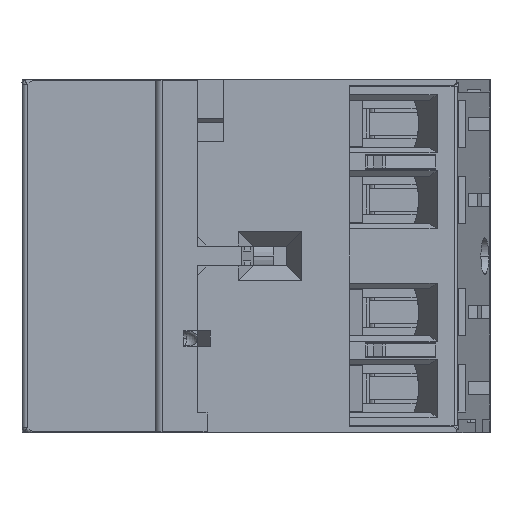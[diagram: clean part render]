
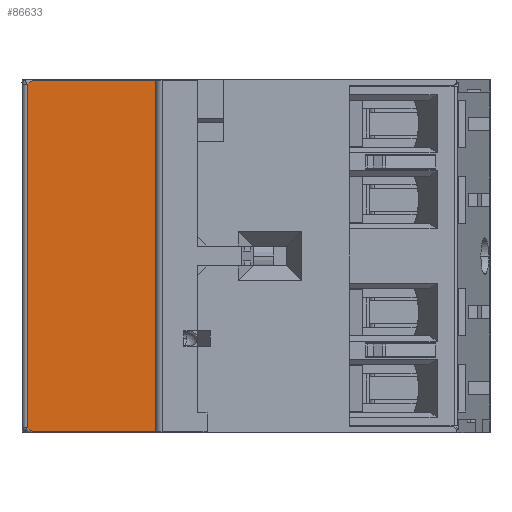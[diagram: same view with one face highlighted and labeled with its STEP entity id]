
A CAD part, left-side view. The second image highlights one B-rep face of the part: STEP entity #86633.
In plain terms, the highlighted planar face has unit normal (-1, 0, 0).
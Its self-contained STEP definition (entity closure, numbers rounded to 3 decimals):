
#24126 = CARTESIAN_POINT ( 'NONE',  ( -22.5, 5.3, 0. ) ) ;
#24317 = DIRECTION ( 'NONE',  ( 0., 0., 1. ) ) ;
#24318 = VECTOR ( 'NONE', #24317, 1000. ) ;
#24319 = CARTESIAN_POINT ( 'NONE',  ( -22.5, 6.3, -26.55 ) ) ;
#24320 = LINE ( 'NONE', #24319, #24318 ) ;
#24396 = CARTESIAN_POINT ( 'NONE',  ( -22.5, 6.3, -2.449 ) ) ;
#24407 = CARTESIAN_POINT ( 'NONE',  ( -22.5, 6.3, 2.449 ) ) ;
#24414 = VECTOR ( 'NONE', #24463, 1000. ) ;
#24415 = CARTESIAN_POINT ( 'NONE',  ( -22.5, 6.3, 2.449 ) ) ;
#24416 = LINE ( 'NONE', #24415, #24414 ) ;
#24421 = CARTESIAN_POINT ( 'NONE',  ( -22.5, 5.3, 0. ) ) ;
#24422 = CARTESIAN_POINT ( 'NONE',  ( -22.5, 5.538, -0.377 ) ) ;
#24423 = CARTESIAN_POINT ( 'NONE',  ( -22.5, 5.779, -0.756 ) ) ;
#24424 = CARTESIAN_POINT ( 'NONE',  ( -22.5, 6.158, -1.565 ) ) ;
#24425 = CARTESIAN_POINT ( 'NONE',  ( -22.5, 6.299, -2. ) ) ;
#24426 = CARTESIAN_POINT ( 'NONE',  ( -22.5, 6.3, -2.449 ) ) ;
#24429 = B_SPLINE_CURVE_WITH_KNOTS ( 'NONE', 3,
 ( #24426, #24425, #24424, #24423, #24422, #24421 ),
 .UNSPECIFIED., .F., .F.,
 ( 4, 2, 4 ),
 ( 0., 0.5, 1. ),
 .UNSPECIFIED. ) ;
#24463 = DIRECTION ( 'NONE',  ( 0., 0., 1. ) ) ;
#24520 = AXIS2_PLACEMENT_3D ( 'NONE', #24568, #24567, #24566 ) ;
#24521 = PLANE ( 'NONE',  #24520 ) ;
#24531 = CARTESIAN_POINT ( 'NONE',  ( -22.5, 6.3, 2.449 ) ) ;
#24532 = CARTESIAN_POINT ( 'NONE',  ( -22.5, 6.299, 2. ) ) ;
#24533 = CARTESIAN_POINT ( 'NONE',  ( -22.5, 6.158, 1.565 ) ) ;
#24534 = CARTESIAN_POINT ( 'NONE',  ( -22.5, 5.779, 0.756 ) ) ;
#24535 = CARTESIAN_POINT ( 'NONE',  ( -22.5, 5.538, 0.377 ) ) ;
#24536 = CARTESIAN_POINT ( 'NONE',  ( -22.5, 5.3, 0. ) ) ;
#24542 = FACE_OUTER_BOUND ( 'NONE', #86447, .T. ) ;
#24543 = B_SPLINE_CURVE_WITH_KNOTS ( 'NONE', 3,
 ( #24536, #24535, #24534, #24533, #24532, #24531 ),
 .UNSPECIFIED., .F., .F.,
 ( 4, 2, 4 ),
 ( 0., 0.5, 1. ),
 .UNSPECIFIED. ) ;
#24566 = DIRECTION ( 'NONE',  ( 0., -1., 0. ) ) ;
#24567 = DIRECTION ( 'NONE',  ( -1., 0., 0. ) ) ;
#24568 = CARTESIAN_POINT ( 'NONE',  ( -22.5, 26.5, -26.75 ) ) ;
#62455 = CARTESIAN_POINT ( 'NONE',  ( -22.5, 25.7, 25.95 ) ) ;
#62681 = CARTESIAN_POINT ( 'NONE',  ( -22.5, 24.676, -26.55 ) ) ;
#62796 = CARTESIAN_POINT ( 'NONE',  ( -22.5, 24.676, -26.55 ) ) ;
#62799 = CARTESIAN_POINT ( 'NONE',  ( -22.5, 24.778, -26.55 ) ) ;
#62800 = CARTESIAN_POINT ( 'NONE',  ( -22.5, 24.879, -26.529 ) ) ;
#62802 = CARTESIAN_POINT ( 'NONE',  ( -22.5, 25.069, -26.457 ) ) ;
#62805 = CARTESIAN_POINT ( 'NONE',  ( -22.5, 25.158, -26.408 ) ) ;
#62807 = CARTESIAN_POINT ( 'NONE',  ( -22.5, 25.41, -26.236 ) ) ;
#62809 = CARTESIAN_POINT ( 'NONE',  ( -22.5, 25.557, -26.094 ) ) ;
#62812 = CARTESIAN_POINT ( 'NONE',  ( -22.5, 25.7, -25.95 ) ) ;
#62841 = B_SPLINE_CURVE_WITH_KNOTS ( 'NONE', 3,
 ( #62812, #62809, #62807, #62805, #62802, #62800, #62799, #62796 ),
 .UNSPECIFIED., .F., .F.,
 ( 4, 2, 2, 4 ),
 ( 0., 0.5, 0.75, 1. ),
 .UNSPECIFIED. ) ;
#62890 = DIRECTION ( 'NONE',  ( 0., -1., 0. ) ) ;
#62891 = VECTOR ( 'NONE', #62890, 1000. ) ;
#62893 = CARTESIAN_POINT ( 'NONE',  ( -22.5, 24.676, -26.55 ) ) ;
#62895 = LINE ( 'NONE', #62893, #62891 ) ;
#62917 = CARTESIAN_POINT ( 'NONE',  ( -22.5, 6.3, -26.55 ) ) ;
#63239 = CARTESIAN_POINT ( 'NONE',  ( -22.5, 25.7, -25.95 ) ) ;
#63249 = LINE ( 'NONE', #63312, #63310 ) ;
#63309 = DIRECTION ( 'NONE',  ( 0., 0., 1. ) ) ;
#63310 = VECTOR ( 'NONE', #63309, 1000. ) ;
#63312 = CARTESIAN_POINT ( 'NONE',  ( -22.5, 25.7, -25.95 ) ) ;
#63968 = CARTESIAN_POINT ( 'NONE',  ( -22.5, 24.676, 26.55 ) ) ;
#63971 = CARTESIAN_POINT ( 'NONE',  ( -22.5, 25.079, 26.55 ) ) ;
#63974 = CARTESIAN_POINT ( 'NONE',  ( -22.5, 25.422, 26.232 ) ) ;
#63977 = CARTESIAN_POINT ( 'NONE',  ( -22.5, 25.7, 25.95 ) ) ;
#64007 = B_SPLINE_CURVE_WITH_KNOTS ( 'NONE', 3,
 ( #63977, #63974, #63971, #63968 ),
 .UNSPECIFIED., .F., .F.,
 ( 4, 4 ),
 ( 0., 1. ),
 .UNSPECIFIED. ) ;
#64493 = DIRECTION ( 'NONE',  ( 0., -1., 0. ) ) ;
#64495 = VECTOR ( 'NONE', #64493, 1000. ) ;
#64497 = CARTESIAN_POINT ( 'NONE',  ( -22.5, 24.676, 26.55 ) ) ;
#64499 = LINE ( 'NONE', #64497, #64495 ) ;
#64524 = CARTESIAN_POINT ( 'NONE',  ( -22.5, 24.676, 26.55 ) ) ;
#64790 = CARTESIAN_POINT ( 'NONE',  ( -22.5, 6.3, 26.55 ) ) ;
#86396 = VERTEX_POINT ( 'NONE', #24126 ) ;
#86447 = EDGE_LOOP ( 'NONE', ( #86449, #86452, #86459, #86462, #86468, #86471, #86555, #86564, #86569 ) ) ;
#86449 = ORIENTED_EDGE ( 'NONE', *, *, #141262, .F. ) ;
#86452 = ORIENTED_EDGE ( 'NONE', *, *, #141236, .F. ) ;
#86459 = ORIENTED_EDGE ( 'NONE', *, *, #141143, .F. ) ;
#86462 = ORIENTED_EDGE ( 'NONE', *, *, #141094, .T. ) ;
#86468 = ORIENTED_EDGE ( 'NONE', *, *, #141110, .T. ) ;
#86471 = ORIENTED_EDGE ( 'NONE', *, *, #86473, .T. ) ;
#86473 = EDGE_CURVE ( 'NONE', #141106, #86549, #24320, .T. ) ;
#86540 = VERTEX_POINT ( 'NONE', #24407 ) ;
#86549 = VERTEX_POINT ( 'NONE', #24396 ) ;
#86555 = ORIENTED_EDGE ( 'NONE', *, *, #86560, .T. ) ;
#86560 = EDGE_CURVE ( 'NONE', #86549, #86396, #24429, .T. ) ;
#86564 = ORIENTED_EDGE ( 'NONE', *, *, #86623, .T. ) ;
#86569 = ORIENTED_EDGE ( 'NONE', *, *, #86570, .T. ) ;
#86570 = EDGE_CURVE ( 'NONE', #86540, #141283, #24416, .T. ) ;
#86623 = EDGE_CURVE ( 'NONE', #86396, #86540, #24543, .T. ) ;
#86633 = ADVANCED_FACE ( 'NONE', ( #24542 ), #24521, .T. ) ;
#141047 = VERTEX_POINT ( 'NONE', #62455 ) ;
#141090 = VERTEX_POINT ( 'NONE', #62681 ) ;
#141094 = EDGE_CURVE ( 'NONE', #141139, #141090, #62841, .T. ) ;
#141106 = VERTEX_POINT ( 'NONE', #62917 ) ;
#141110 = EDGE_CURVE ( 'NONE', #141090, #141106, #62895, .T. ) ;
#141139 = VERTEX_POINT ( 'NONE', #63239 ) ;
#141143 = EDGE_CURVE ( 'NONE', #141139, #141047, #63249, .T. ) ;
#141236 = EDGE_CURVE ( 'NONE', #141047, #141260, #64007, .T. ) ;
#141260 = VERTEX_POINT ( 'NONE', #64524 ) ;
#141262 = EDGE_CURVE ( 'NONE', #141260, #141283, #64499, .T. ) ;
#141283 = VERTEX_POINT ( 'NONE', #64790 ) ;
